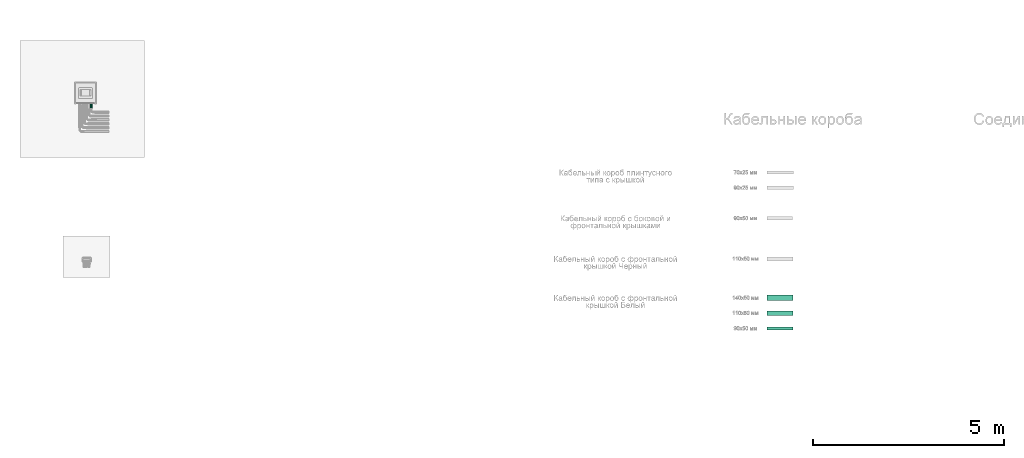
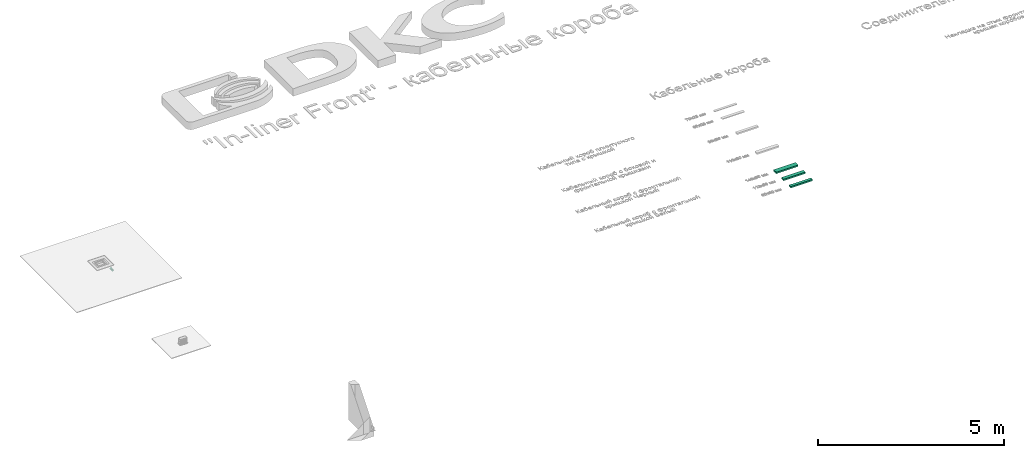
# One storey, part 10 of 87: 4 flow segments.
"""IFC2X3 building model written with IfcOpenShell, lengths in millimetres."""

from ifc_helpers import new_model, entity, si_unit, converted_unit, derived_unit, direction, frame, frame_2d, origin, origin_2d_with_axis, place, context, subcontext, project, spatial, rectangle, circle, extrude, type_object, element, save


model = new_model("IFC2X3")

# Units and contexts
model_context = context("Model", 3, precision=0.01, world=origin(), true_north=direction((6.12303176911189e-17, 1.0)))
body_context = subcontext(model_context, "Body", "Model", "MODEL_VIEW")
ifc_project = project(units=[si_unit("LENGTHUNIT", "METRE", prefix="MILLI"), si_unit("AREAUNIT", "SQUARE_METRE"), si_unit("VOLUMEUNIT", "CUBIC_METRE"), converted_unit("PLANEANGLEUNIT", "DEGREE", entity("IfcRatioMeasure", 0.0174532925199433), si_unit("PLANEANGLEUNIT", "RADIAN"), dimensions=[0, 0, 0, 0, 0, 0, 0]), si_unit("MASSUNIT", "GRAM", prefix="KILO"), derived_unit("MASSDENSITYUNIT", [(si_unit("MASSUNIT", "GRAM", prefix="KILO"), 1), (si_unit("LENGTHUNIT", "METRE"), -3)]), si_unit("TIMEUNIT", "SECOND"), si_unit("FREQUENCYUNIT", "HERTZ"), si_unit("THERMODYNAMICTEMPERATUREUNIT", "DEGREE_CELSIUS"), derived_unit("THERMALTRANSMITTANCEUNIT", [(si_unit("MASSUNIT", "GRAM", prefix="KILO"), 1), (si_unit("THERMODYNAMICTEMPERATUREUNIT", "KELVIN"), -1), (si_unit("TIMEUNIT", "SECOND"), -3)]), derived_unit("VOLUMETRICFLOWRATEUNIT", [(si_unit("LENGTHUNIT", "METRE"), 3), (si_unit("TIMEUNIT", "SECOND"), -1)]), si_unit("ELECTRICCURRENTUNIT", "AMPERE"), si_unit("ELECTRICVOLTAGEUNIT", "VOLT"), si_unit("POWERUNIT", "WATT"), si_unit("FORCEUNIT", "NEWTON", prefix="KILO"), si_unit("ILLUMINANCEUNIT", "LUX"), si_unit("LUMINOUSFLUXUNIT", "LUMEN"), si_unit("LUMINOUSINTENSITYUNIT", "CANDELA"), derived_unit("USERDEFINED", [(si_unit("MASSUNIT", "GRAM", prefix="KILO"), -1), (si_unit("LENGTHUNIT", "METRE"), -2), (si_unit("TIMEUNIT", "SECOND"), 3), (si_unit("LUMINOUSFLUXUNIT", "LUMEN"), 1)]), derived_unit("LINEARVELOCITYUNIT", [(si_unit("LENGTHUNIT", "METRE"), 1), (si_unit("TIMEUNIT", "SECOND"), -1)]), si_unit("PRESSUREUNIT", "PASCAL"), derived_unit("USERDEFINED", [(si_unit("LENGTHUNIT", "METRE"), -2), (si_unit("MASSUNIT", "GRAM", prefix="KILO"), 1), (si_unit("TIMEUNIT", "SECOND"), -2)])], contexts=[model_context])

# Site, building, storey
site_placement = place(None, origin())
site = spatial("IfcSite", under=ifc_project, at=site_placement, Name="Default", CompositionType="ELEMENT")
building_placement = place(site_placement, origin())
building = spatial("IfcBuilding", under=site, at=building_placement, Name="Наименование здания", CompositionType="ELEMENT")
storey_placement = place(building_placement, origin())
storey = spatial("IfcBuildingStorey", under=building, at=storey_placement, Name="Этаж 01", CompositionType="ELEMENT", Elevation=0.0)

# Flow segments
cable_carrier_segment_type_1 = type_object("IfcCableCarrierSegmentType", Name="Кабельный лоток с соединительными деталями:Кабельный короб с фронтальной крышкой Белый", PredefinedType="CABLETRAYSEGMENT")
flow_segment_1_placement = place(storey_placement, origin())
element("IfcFlowSegment", 1, at=flow_segment_1_placement, inside=storey, type_object=cable_carrier_segment_type_1, Name="Кабельный лоток с соединительными деталями:Кабельный короб с фронтальной крышкой Белый", ObjectType="Кабельный лоток с соединительными деталями:Кабельный короб с фронтальной крышкой Белый", context=body_context, shape_type="SweptSolid", body=[
    extrude(rectangle(XDim=680.0, YDim=140.0, at=origin_2d_with_axis()), frame((1345.40052931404, 1368.91140209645, -25.0)), (0.0, 0.0, 1.0), 50.0),
])
flow_segment_2_placement = place(storey_placement, origin())
element("IfcFlowSegment", 2, at=flow_segment_2_placement, inside=storey, type_object=cable_carrier_segment_type_1, Name="Кабельный лоток с соединительными деталями:Кабельный короб с фронтальной крышкой Белый", ObjectType="Кабельный лоток с соединительными деталями:Кабельный короб с фронтальной крышкой Белый", context=body_context, shape_type="SweptSolid", body=[
    extrude(rectangle(XDim=680.0, YDim=110.0, at=origin_2d_with_axis()), frame((1345.40052931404, 968.911402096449, -25.0)), (0.0, 0.0, 1.0), 50.0),
])
flow_segment_3_placement = place(storey_placement, origin())
element("IfcFlowSegment", 3, at=flow_segment_3_placement, inside=storey, type_object=cable_carrier_segment_type_1, Name="Кабельный лоток с соединительными деталями:Кабельный короб с фронтальной крышкой Белый", ObjectType="Кабельный лоток с соединительными деталями:Кабельный короб с фронтальной крышкой Белый", context=body_context, shape_type="SweptSolid", body=[
    extrude(rectangle(XDim=680.0, YDim=90.0, at=frame_2d((0.0, 6.75015598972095e-14), x_axis=(1.0, 0.0))), frame((1345.40052931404, 568.911402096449, -25.0)), (0.0, 0.0, 1.0), 50.0),
])
cable_carrier_segment_type_2 = type_object("IfcCableCarrierSegmentType", Name="Короб с соединительными деталями:ADSK_Труба водогазопроводная_Стальная", PredefinedType="CONDUITSEGMENT")
flow_segment_4_placement = place(storey_placement, origin())
element("IfcFlowSegment", 4, at=flow_segment_4_placement, inside=storey, type_object=cable_carrier_segment_type_2, Name="Короб с соединительными деталями:ADSK_Труба водогазопроводная_Стальная", ObjectType="Короб с соединительными деталями:ADSK_Труба водогазопроводная_Стальная", context=body_context, shape_type="SweptSolid", body=[
    extrude(circle(Radius=25.0, at=frame_2d((-8.66293703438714e-12, 8.88289442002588e-13), x_axis=(1.0, 0.0))), frame((-16665.2403415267, 6339.36678153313, -59.5000000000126), z_axis=(0.0, 1.0, 0.0), x_axis=(-1.0, 0.0, 0.0)), (0.0, 0.0, 1.0), 115.000000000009),
])

save(model, "model.ifc")
